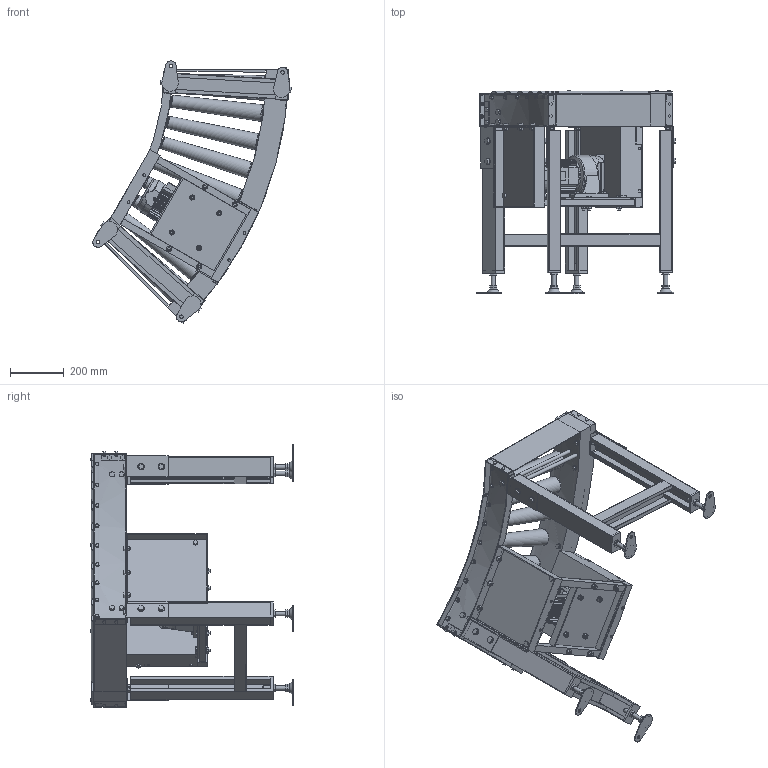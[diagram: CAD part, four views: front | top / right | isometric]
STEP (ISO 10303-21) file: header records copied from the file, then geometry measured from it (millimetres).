
FILE_DESCRIPTION( (''), '2;1');
FILE_NAME ('WEB-MCC3-45-400-100-45°-L.stp','2025-07-18T07:50:22',(''),(''),'spGate 20.6.2 (****-****-****-****)','','');
FILE_SCHEMA (('AUTOMOTIVE_DESIGN'));
Length unit declared in the file: millimetre
Products named in the file (22): WEB-MCC3-45-400-100-45_-L; TEMP_X_T-prt0; TEMP_X_T-prt1; TEMP_X_T-prt2; TEMP_X_T-prt3; TEMP_X_T-prt4; TEMP_X_T-prt5; TEMP_X_T-prt6; TEMP_X_T-prt7; TEMP_X_T-prt8; TEMP_X_T-prt9; TEMP_X_T-prt10; TEMP_X_T-prt11; TEMP_X_T-prt12; TEMP_X_T-prt13; TEMP_X_T-prt14; TEMP_X_T-prt15; TEMP_X_T-prt16; TEMP_X_T-prt17; TEMP_X_T-prt18; TEMP_X_T-prt19; TEMP_X_T-prt20
Assembly tree (21 placements, depth 2):
  WEB-MCC3-45-400-100-45_-L
    TEMP_X_T-prt0
    TEMP_X_T-prt1
    TEMP_X_T-prt2
    TEMP_X_T-prt3
    TEMP_X_T-prt4
    TEMP_X_T-prt5
    TEMP_X_T-prt6
    TEMP_X_T-prt7
    TEMP_X_T-prt8
    TEMP_X_T-prt9
    TEMP_X_T-prt10
    TEMP_X_T-prt11
    TEMP_X_T-prt12
    TEMP_X_T-prt13
    TEMP_X_T-prt14
    TEMP_X_T-prt15
    TEMP_X_T-prt16
    TEMP_X_T-prt17
    TEMP_X_T-prt18
    TEMP_X_T-prt19
    TEMP_X_T-prt20
Bounding box: 735.71 x 752.2 x 972.78 mm (x, y, z)
Volume: 27748910.6 mm3; surface area: 4025268.8 mm2
Topology: 21 solids, 22 shells, 2640 faces, 6819 edges, 4524 vertices
Faces by surface type: plane 2045, cylinder 520, bspline 75
Full cylindrical faces by diameter (mm): 5 x4, 6 x28, 8 x1, 9.2 x4, 10 x46, 10.5 x4, 11 x4, 12 x11, 12.2 x12, 13 x12, 13.8 x12, 15 x1, 15.4 x19, 16 x16, 17.3 x9, 18 x14, 18.4 x24, 21 x4, 21.5 x1, 24 x8, 28 x10, 31 x1, 45 x9, 63 x1, 113.2 x1, 153 x1
Entity records: 142236 total; most frequent: CARTESIAN_POINT 21690, ORIENTED_EDGE 13636, DIRECTION 13304, COLOUR_RGB 9479, PRESENTATION_STYLE_ASSIGNMENT 9479, STYLED_ITEM 9479, EDGE_CURVE 6818, DRAUGHTING_PRE_DEFINED_CURVE_FONT 6818
